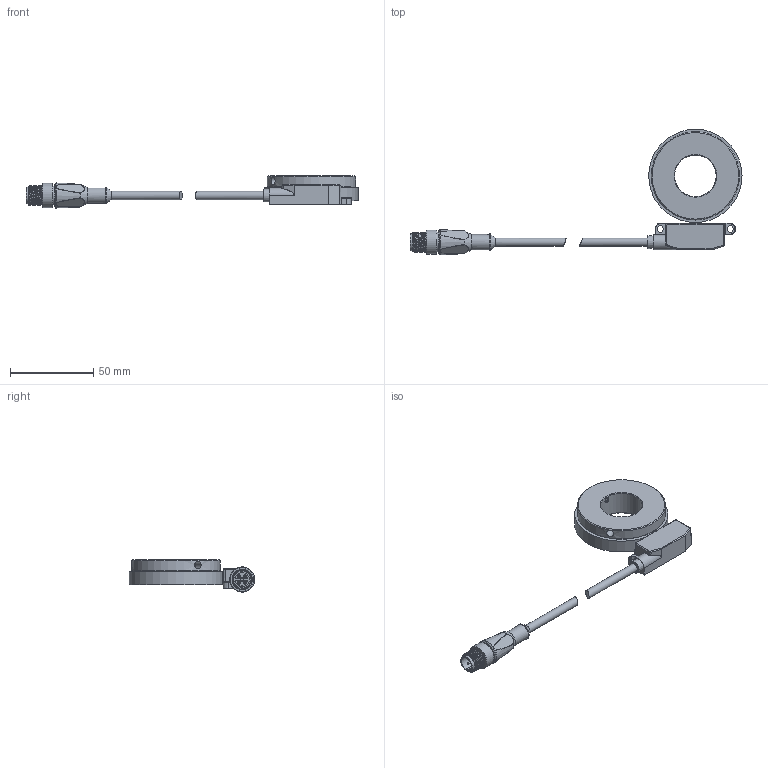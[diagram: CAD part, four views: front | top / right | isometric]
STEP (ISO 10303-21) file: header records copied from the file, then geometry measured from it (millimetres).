
FILE_DESCRIPTION(/* description */ ('CAx-IF Rec.Pracs.---Representation and Presentation of Product Manufacturing Information (PMI)---4.0---2014-10-13','CAx-IF Rec.Pracs.---3D Tessellated Geometry---0.4---2014-09-14','2;1'),/* implementation_level */ '2;1');
FILE_NAME(/* name */ 'PUB-EB200E IR-FN 8L2G_EBS S D56',/* time_stamp */ '2025-02-04T10:27:10+01:00',/* author */ (''),/* organization */ ('Baumer'),/* preprocessor_version */ 'ST-DEVELOPER v19.4',/* originating_system */ 'Solid Edge',/* authorisation */ 'Unknown');
FILE_SCHEMA (('AP242_MANAGED_MODEL_BASED_3D_ENGINEERING_MIM_LF { 1 0 10303 442 1 1 4 }'));
Length unit declared in the file: millimetre
Products named in the file (7): EB200E IR-FN 8L2G_EBS S D56; D0001019906-Gehäuse EB200E; D0001009985-EBS.R-FN064.S025.A15.P0056_oa_0; D0001009698-Nabe Ø25; D0001001874-Gwd-Sti-I6kt M4.0x 5 D916 vzk12.9_11074097; D0001028251-Kabel A1788-CP-T0088; D0001012533-EBS.R-FN064.B048.N08.P0056
Assembly tree (7 placements, depth 3):
  EB200E IR-FN 8L2G_EBS S D56
    D0001019906-Gehäuse EB200E
    D0001009985-EBS.R-FN064.S025.A15.P0056_oa_0
      D0001009698-Nabe Ø25
      D0001001874-Gwd-Sti-I6kt M4.0x 5 D916 vzk12.9_11074097  x2
    D0001028251-Kabel A1788-CP-T0088
    D0001012533-EBS.R-FN064.B048.N08.P0056
Bounding box: 199.29 x 75.33 x 19.28 mm (x, y, z)
Volume: 42350.6 mm3; surface area: 18858 mm2
Topology: 7 solids, 7 shells, 294 faces, 685 edges, 412 vertices
Faces by surface type: plane 111, cylinder 61, bspline 47, cone 32, torus 22, sphere 21
Full cylindrical faces by diameter (mm): 0.66 x4, 1 x4, 2 x5, 3.242 x2, 4 x2, 4.38 x1, 4.5 x2, 5 x2, 8.5 x1, 9.3 x1, 10 x1, 12 x1, 14.6 x1, 25 x1, 47.9 x2, 53 x1, 56 x1
Entity records: 11971 total; most frequent: CARTESIAN_POINT 4724, DIRECTION 1174, ORIENTED_EDGE 1072, EDGE_CURVE 536, AXIS2_PLACEMENT_3D 484, FACE_BOUND 390, EDGE_LOOP 388, VERTEX_POINT 362
